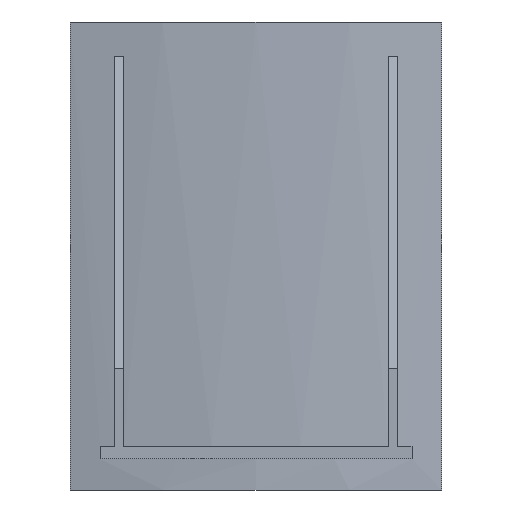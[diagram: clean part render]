
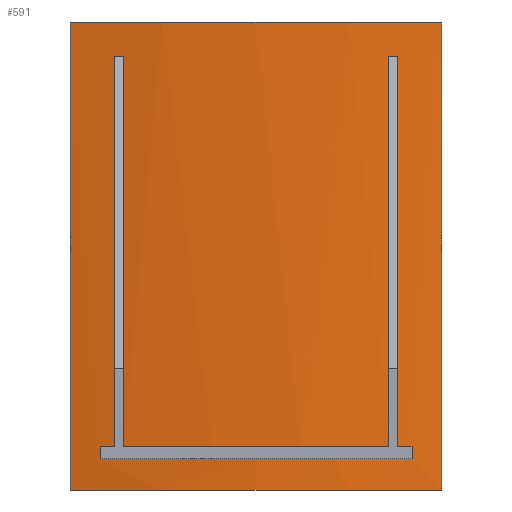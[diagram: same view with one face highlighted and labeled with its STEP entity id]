
A CAD part, left-side view. The second image highlights one B-rep face of the part: STEP entity #591.
In plain terms, the highlighted cylindrical face has radius 1118 mm (diameter 2236 mm), a partial arc.
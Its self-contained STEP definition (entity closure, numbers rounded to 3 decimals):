
#19=FACE_BOUND('',#105,.T.);
#28=CIRCLE('',#643,1118.);
#29=CIRCLE('',#645,1118.);
#30=CIRCLE('',#647,1118.);
#31=CIRCLE('',#651,1118.);
#34=CIRCLE('',#657,1118.);
#35=CIRCLE('',#658,1118.);
#41=CYLINDRICAL_SURFACE('',#656,1118.);
#69=FACE_OUTER_BOUND('',#104,.T.);
#104=EDGE_LOOP('',(#513,#514,#515,#516));
#105=EDGE_LOOP('',(#517,#518,#519,#520,#521,#522,#523,#524,#525,#526));
#162=LINE('',#955,#228);
#164=LINE('',#959,#230);
#169=LINE('',#976,#235);
#170=LINE('',#982,#236);
#171=LINE('',#983,#237);
#172=LINE('',#984,#238);
#228=VECTOR('',#785,10.);
#230=VECTOR('',#789,10.);
#235=VECTOR('',#806,10.);
#236=VECTOR('',#813,10.);
#237=VECTOR('',#814,10.);
#238=VECTOR('',#815,10.);
#269=VERTEX_POINT('',#902);
#270=VERTEX_POINT('',#904);
#277=VERTEX_POINT('',#923);
#278=VERTEX_POINT('',#925);
#281=VERTEX_POINT('',#943);
#282=VERTEX_POINT('',#947);
#283=VERTEX_POINT('',#953);
#284=VERTEX_POINT('',#957);
#289=VERTEX_POINT('',#972);
#290=VERTEX_POINT('',#974);
#291=VERTEX_POINT('',#978);
#292=VERTEX_POINT('',#980);
#351=EDGE_CURVE('',#281,#269,#28,.T.);
#354=EDGE_CURVE('',#277,#282,#29,.T.);
#355=EDGE_CURVE('',#269,#277,#30,.T.);
#357=EDGE_CURVE('',#283,#281,#162,.T.);
#359=EDGE_CURVE('',#282,#284,#164,.T.);
#360=EDGE_CURVE('',#284,#283,#31,.T.);
#367=EDGE_CURVE('',#289,#290,#169,.T.);
#368=EDGE_CURVE('',#291,#289,#34,.T.);
#369=EDGE_CURVE('',#292,#290,#35,.T.);
#370=EDGE_CURVE('',#291,#292,#170,.T.);
#371=EDGE_CURVE('',#270,#269,#171,.T.);
#372=EDGE_CURVE('',#278,#277,#172,.T.);
#513=ORIENTED_EDGE('',*,*,#368,.T.);
#514=ORIENTED_EDGE('',*,*,#367,.T.);
#515=ORIENTED_EDGE('',*,*,#369,.F.);
#516=ORIENTED_EDGE('',*,*,#370,.F.);
#517=ORIENTED_EDGE('',*,*,#359,.T.);
#518=ORIENTED_EDGE('',*,*,#360,.T.);
#519=ORIENTED_EDGE('',*,*,#357,.T.);
#520=ORIENTED_EDGE('',*,*,#351,.T.);
#521=ORIENTED_EDGE('',*,*,#371,.F.);
#522=ORIENTED_EDGE('',*,*,#371,.T.);
#523=ORIENTED_EDGE('',*,*,#355,.T.);
#524=ORIENTED_EDGE('',*,*,#372,.F.);
#525=ORIENTED_EDGE('',*,*,#372,.T.);
#526=ORIENTED_EDGE('',*,*,#354,.T.);
#591=ADVANCED_FACE('',(#69,#19),#41,.T.);
#643=AXIS2_PLACEMENT_3D('',#944,#770,#771);
#645=AXIS2_PLACEMENT_3D('',#949,#776,#777);
#647=AXIS2_PLACEMENT_3D('',#951,#780,#781);
#651=AXIS2_PLACEMENT_3D('',#961,#792,#793);
#656=AXIS2_PLACEMENT_3D('',#977,#807,#808);
#657=AXIS2_PLACEMENT_3D('',#979,#809,#810);
#658=AXIS2_PLACEMENT_3D('',#981,#811,#812);
#770=DIRECTION('center_axis',(0.,0.,1.));
#771=DIRECTION('ref_axis',(-0.977,0.213,0.));
#776=DIRECTION('center_axis',(0.,0.,1.));
#777=DIRECTION('ref_axis',(-0.977,0.213,0.));
#780=DIRECTION('center_axis',(0.,0.,1.));
#781=DIRECTION('ref_axis',(-0.977,0.213,0.));
#785=DIRECTION('',(0.,0.,1.));
#789=DIRECTION('',(0.,0.,-1.));
#792=DIRECTION('center_axis',(0.,0.,-1.));
#793=DIRECTION('ref_axis',(-0.977,0.213,0.));
#806=DIRECTION('',(0.,0.,1.));
#807=DIRECTION('center_axis',(0.,0.,1.));
#808=DIRECTION('ref_axis',(-0.977,0.213,0.));
#809=DIRECTION('center_axis',(0.,0.,1.));
#810=DIRECTION('ref_axis',(-0.977,0.213,0.));
#811=DIRECTION('center_axis',(0.,0.,1.));
#812=DIRECTION('ref_axis',(-0.977,0.213,0.));
#813=DIRECTION('',(0.,0.,1.));
#814=DIRECTION('',(0.,0.,-1.));
#815=DIRECTION('',(0.,0.,-1.));
#902=CARTESIAN_POINT('',(-1105.,170.,56.));
#904=CARTESIAN_POINT('',(-1105.,170.,556.));
#923=CARTESIAN_POINT('',(-1105.,-170.,56.));
#925=CARTESIAN_POINT('',(-1105.,-170.,556.));
#943=CARTESIAN_POINT('',(-1099.965,200.,56.));
#944=CARTESIAN_POINT('Origin',(0.,0.,56.));
#947=CARTESIAN_POINT('',(-1099.965,-200.,56.));
#949=CARTESIAN_POINT('Origin',(0.,0.,56.));
#951=CARTESIAN_POINT('Origin',(0.,0.,56.));
#953=CARTESIAN_POINT('',(-1099.965,200.,40.));
#955=CARTESIAN_POINT('',(-1099.965,200.,0.));
#957=CARTESIAN_POINT('',(-1099.965,-200.,40.));
#959=CARTESIAN_POINT('',(-1099.965,-200.,0.));
#961=CARTESIAN_POINT('Origin',(0.,0.,40.));
#972=CARTESIAN_POINT('',(-1092.338,-238.161,0.));
#974=CARTESIAN_POINT('',(-1092.338,-238.161,600.));
#976=CARTESIAN_POINT('',(-1092.338,-238.161,0.));
#977=CARTESIAN_POINT('Origin',(0.,0.,0.));
#978=CARTESIAN_POINT('',(-1092.338,238.161,0.));
#979=CARTESIAN_POINT('Origin',(0.,0.,0.));
#980=CARTESIAN_POINT('',(-1092.338,238.161,600.));
#981=CARTESIAN_POINT('Origin',(0.,0.,600.));
#982=CARTESIAN_POINT('',(-1092.338,238.161,0.));
#983=CARTESIAN_POINT('',(-1105.,170.,0.));
#984=CARTESIAN_POINT('',(-1105.,-170.,0.));
